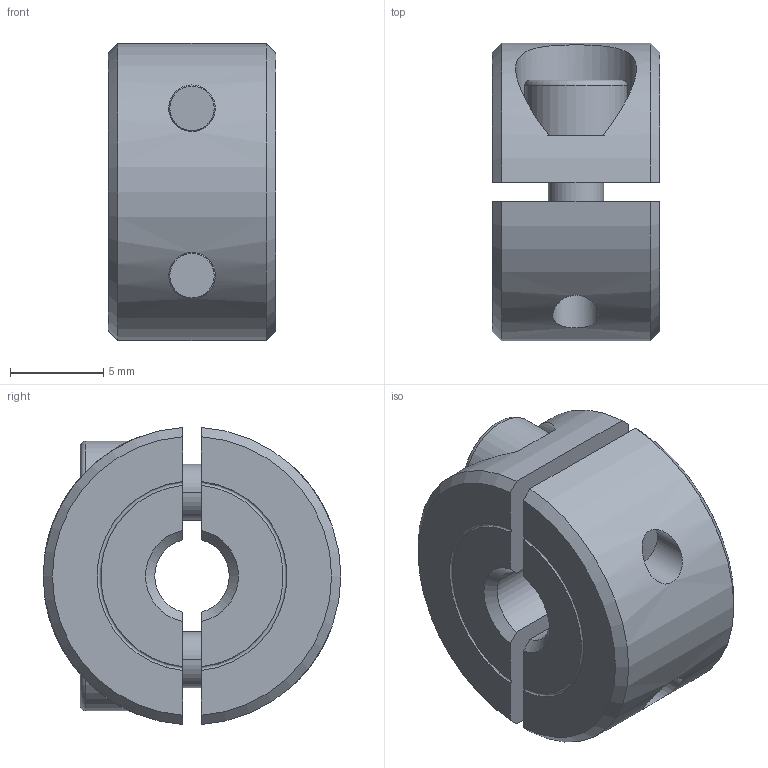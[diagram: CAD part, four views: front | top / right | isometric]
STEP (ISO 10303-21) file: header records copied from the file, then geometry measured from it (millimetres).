
FILE_DESCRIPTION((''),'2;1');
FILE_NAME('131-600-0004_ASM','2013-12-20T',('Brieden'),('brieden'),'PRO/ENGINEER BY PARAMETRIC TECHNOLOGY CORPORATION, 2005030','PRO/ENGINEER BY PARAMETRIC TECHNOLOGY CORPORATION, 2005030','');
FILE_SCHEMA(('AUTOMOTIVE_DESIGN_CC2 { 1 2 10303 214 -1 1 5 2 }'));
Length unit declared in the file: millimetre
Products named in the file (4): 131-600-0004-DB_PRT; 131-600-0004-TH_PRT; D912-M3X8_PRT; 131-600-0004_ASM
Assembly tree (4 placements, depth 2):
  131-600-0004_ASM
    131-600-0004-DB_PRT
    131-600-0004-TH_PRT
    D912-M3X8_PRT  x2
Bounding box: 9 x 16 x 15.97 mm (x, y, z)
Volume: 1494.7 mm3; surface area: 1617.1 mm2
Topology: 4 solids, 4 shells, 94 faces, 214 edges, 136 vertices
Faces by surface type: plane 34, cylinder 26, cone 20, torus 14
Entity records: 2243 total; most frequent: CARTESIAN_POINT 542, DIRECTION 348, ORIENTED_EDGE 312, EDGE_CURVE 156, AXIS2_PLACEMENT_3D 143, VERTEX_POINT 100, EDGE_LOOP 80, CIRCLE 68
